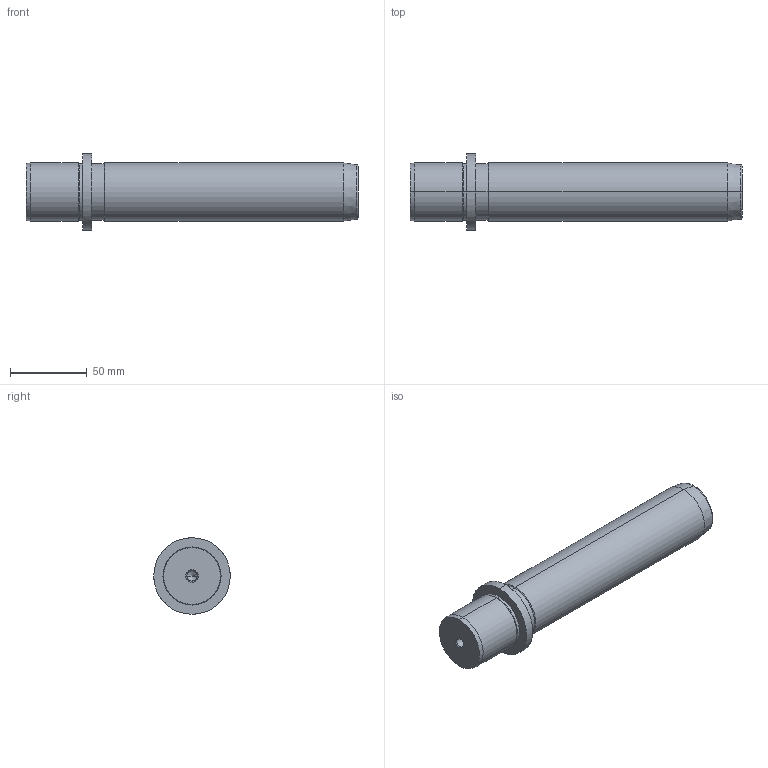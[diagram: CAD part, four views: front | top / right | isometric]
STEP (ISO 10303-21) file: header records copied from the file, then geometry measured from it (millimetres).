
FILE_DESCRIPTION(('CATIA V5 STEP Exchange'),'2;1');
FILE_NAME('C:\Users\Utente\Desktop\IO LAVORO\3D X SITO CF\X SITO\718\718-38x180.stp','2021-01-02T12:57:02+00:00',('none'),('none'),'CATIA Version 5 Release 20 GA (IN-10)','CATIA V5 STEP AP203','none');
FILE_SCHEMA(('CONFIG_CONTROL_DESIGN'));
Length unit declared in the file: millimetre
Products named in the file (1): 718-38x180
Bounding box: 217 x 50 x 50 mm (x, y, z)
Volume: 247898.3 mm3; surface area: 30913.3 mm2
Topology: 1 solids, 1 shells, 36 faces, 100 edges, 66 vertices
Faces by surface type: cone 16, cylinder 14, plane 4, torus 2
Entity records: 1291 total; most frequent: CARTESIAN_POINT 362, ORIENTED_EDGE 192, DIRECTION 157, EDGE_CURVE 96, AXIS2_PLACEMENT_3D 92, VERTEX_POINT 66, CIRCLE 55, EDGE_LOOP 40
